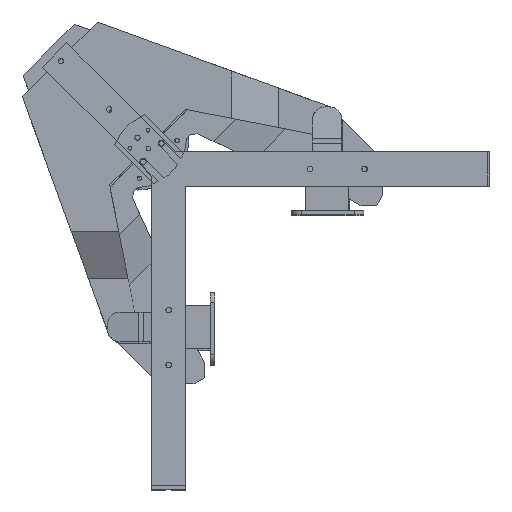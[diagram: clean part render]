
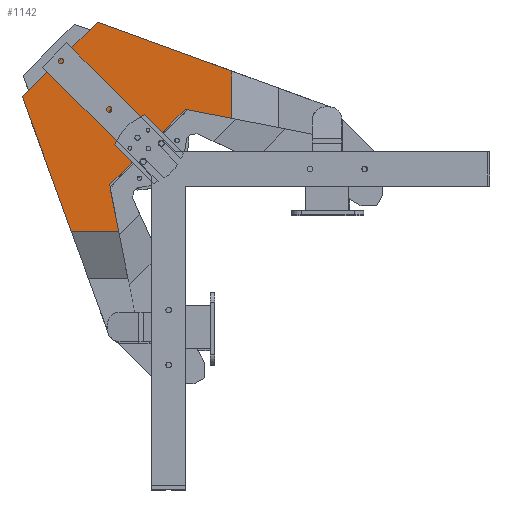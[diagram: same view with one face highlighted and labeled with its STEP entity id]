
A CAD part, top view. The second image highlights one B-rep face of the part: STEP entity #1142.
In plain terms, the highlighted planar face has unit normal (0, 0, 1).
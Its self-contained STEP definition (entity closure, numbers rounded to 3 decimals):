
#1142=ADVANCED_FACE('',(#2999,#3000,#3001),#3002,.F.);
#2999=FACE_BOUND('',#5664,.T.);
#3000=FACE_BOUND('',#5665,.T.);
#3001=FACE_OUTER_BOUND('',#5666,.T.);
#3002=PLANE('',#5667);
#5664=EDGE_LOOP('',(#9088,#9089,#9090,#9091,#9092,#9093,#9094));
#5665=EDGE_LOOP('',(#9095,#9096,#9097,#9098,#9099,#9100,#9101));
#5666=EDGE_LOOP('',(#9102,#9103,#9104,#9105,#9106,#9107,#9108,#9109,#9110,#9111,#9112,#9113,#9114));
#5667=AXIS2_PLACEMENT_3D('',#9115,#9116,#9117);
#9088=ORIENTED_EDGE('',*,*,#16043,.T.);
#9089=ORIENTED_EDGE('',*,*,#16006,.T.);
#9090=ORIENTED_EDGE('',*,*,#16047,.T.);
#9091=ORIENTED_EDGE('',*,*,#16035,.T.);
#9092=ORIENTED_EDGE('',*,*,#16011,.T.);
#9093=ORIENTED_EDGE('',*,*,#16016,.T.);
#9094=ORIENTED_EDGE('',*,*,#16041,.T.);
#9095=ORIENTED_EDGE('',*,*,#16057,.T.);
#9096=ORIENTED_EDGE('',*,*,#15992,.T.);
#9097=ORIENTED_EDGE('',*,*,#16061,.T.);
#9098=ORIENTED_EDGE('',*,*,#16049,.T.);
#9099=ORIENTED_EDGE('',*,*,#15997,.T.);
#9100=ORIENTED_EDGE('',*,*,#16002,.T.);
#9101=ORIENTED_EDGE('',*,*,#16055,.T.);
#9102=ORIENTED_EDGE('',*,*,#16117,.T.);
#9103=ORIENTED_EDGE('',*,*,#16118,.T.);
#9104=ORIENTED_EDGE('',*,*,#16119,.F.);
#9105=ORIENTED_EDGE('',*,*,#16120,.F.);
#9106=ORIENTED_EDGE('',*,*,#16121,.T.);
#9107=ORIENTED_EDGE('',*,*,#16072,.F.);
#9108=ORIENTED_EDGE('',*,*,#16107,.F.);
#9109=ORIENTED_EDGE('',*,*,#16093,.T.);
#9110=ORIENTED_EDGE('',*,*,#16104,.T.);
#9111=ORIENTED_EDGE('',*,*,#16084,.F.);
#9112=ORIENTED_EDGE('',*,*,#16112,.F.);
#9113=ORIENTED_EDGE('',*,*,#16114,.T.);
#9114=ORIENTED_EDGE('',*,*,#16065,.F.);
#9115=CARTESIAN_POINT('',(-46.431,58.693,646.3));
#9116=DIRECTION('',(0.0,0.0,-1.0));
#9117=DIRECTION('',(1.0,0.0,0.0));
#15992=EDGE_CURVE('',#19267,#19264,#19268,.T.);
#15997=EDGE_CURVE('',#19276,#19274,#19277,.T.);
#16002=EDGE_CURVE('',#19274,#19282,#19285,.T.);
#16006=EDGE_CURVE('',#19291,#19288,#19292,.T.);
#16011=EDGE_CURVE('',#19300,#19298,#19301,.T.);
#16016=EDGE_CURVE('',#19298,#19306,#19309,.T.);
#16035=EDGE_CURVE('',#19336,#19300,#19337,.T.);
#16041=EDGE_CURVE('',#19306,#19344,#19346,.T.);
#16043=EDGE_CURVE('',#19344,#19291,#19348,.T.);
#16047=EDGE_CURVE('',#19288,#19336,#19352,.T.);
#16049=EDGE_CURVE('',#19354,#19276,#19355,.T.);
#16055=EDGE_CURVE('',#19282,#19362,#19364,.T.);
#16057=EDGE_CURVE('',#19362,#19267,#19366,.T.);
#16061=EDGE_CURVE('',#19264,#19354,#19370,.T.);
#16065=EDGE_CURVE('',#19375,#19377,#19378,.T.);
#16072=EDGE_CURVE('',#19388,#19383,#19390,.T.);
#16084=EDGE_CURVE('',#19408,#19410,#19411,.T.);
#16093=EDGE_CURVE('',#19424,#19422,#19425,.T.);
#16104=EDGE_CURVE('',#19422,#19410,#19438,.T.);
#16107=EDGE_CURVE('',#19424,#19388,#19441,.T.);
#16112=EDGE_CURVE('',#19447,#19408,#19449,.T.);
#16114=EDGE_CURVE('',#19447,#19377,#19451,.T.);
#16117=EDGE_CURVE('',#19375,#19454,#19455,.T.);
#16118=EDGE_CURVE('',#19454,#19456,#19457,.T.);
#16119=EDGE_CURVE('',#19458,#19456,#19459,.T.);
#16120=EDGE_CURVE('',#19460,#19458,#19461,.T.);
#16121=EDGE_CURVE('',#19460,#19383,#19462,.T.);
#19264=VERTEX_POINT('',#24403);
#19267=VERTEX_POINT('',#24407);
#19268=CIRCLE('',#24408,2.9);
#19274=VERTEX_POINT('',#24415);
#19276=VERTEX_POINT('',#24418);
#19277=CIRCLE('',#24419,5.4);
#19282=VERTEX_POINT('',#24425);
#19285=CIRCLE('',#24429,5.4);
#19288=VERTEX_POINT('',#24432);
#19291=VERTEX_POINT('',#24436);
#19292=CIRCLE('',#24437,2.9);
#19298=VERTEX_POINT('',#24444);
#19300=VERTEX_POINT('',#24447);
#19301=CIRCLE('',#24448,5.4);
#19306=VERTEX_POINT('',#24454);
#19309=CIRCLE('',#24458,5.4);
#19336=VERTEX_POINT('',#24489);
#19337=LINE('',#24490,#24491);
#19344=VERTEX_POINT('',#24500);
#19346=CIRCLE('',#24503,5.4);
#19348=LINE('',#24505,#24506);
#19352=CIRCLE('',#24511,2.9);
#19354=VERTEX_POINT('',#24513);
#19355=LINE('',#24514,#24515);
#19362=VERTEX_POINT('',#24524);
#19364=CIRCLE('',#24527,5.4);
#19366=LINE('',#24529,#24530);
#19370=CIRCLE('',#24535,2.9);
#19375=VERTEX_POINT('',#24541);
#19377=VERTEX_POINT('',#24544);
#19378=LINE('',#24545,#24546);
#19383=VERTEX_POINT('',#24553);
#19388=VERTEX_POINT('',#24560);
#19390=LINE('',#24563,#24564);
#19408=VERTEX_POINT('',#24589);
#19410=VERTEX_POINT('',#24592);
#19411=LINE('',#24593,#24594);
#19422=VERTEX_POINT('',#24609);
#19424=VERTEX_POINT('',#24612);
#19425=LINE('',#24613,#24614);
#19438=LINE('',#24633,#24634);
#19441=LINE('',#24638,#24639);
#19447=VERTEX_POINT('',#24647);
#19449=LINE('',#24650,#24651);
#19451=LINE('',#24653,#24654);
#19454=VERTEX_POINT('',#24658);
#19455=LINE('',#24659,#24660);
#19456=VERTEX_POINT('',#24661);
#19457=LINE('',#24662,#24663);
#19458=VERTEX_POINT('',#24664);
#19459=LINE('',#24665,#24666);
#19460=VERTEX_POINT('',#24667);
#19461=LINE('',#24668,#24669);
#19462=LINE('',#24670,#24671);
#24403=CARTESIAN_POINT('',(-109.393,112.983,646.3));
#24407=CARTESIAN_POINT('',(-110.243,115.034,646.3));
#24408=AXIS2_PLACEMENT_3D('',#31413,#31414,#31415);
#24415=CARTESIAN_POINT('',(-123.35,118.64,646.3));
#24418=CARTESIAN_POINT('',(-116.78,113.368,646.3));
#24419=AXIS2_PLACEMENT_3D('',#31421,#31422,#31423);
#24425=CARTESIAN_POINT('',(-112.55,118.64,646.3));
#24429=AXIS2_PLACEMENT_3D('',#31429,#31430,#31431);
#24432=CARTESIAN_POINT('',(-159.386,162.976,646.3));
#24436=CARTESIAN_POINT('',(-160.235,165.026,646.3));
#24437=AXIS2_PLACEMENT_3D('',#31436,#31437,#31438);
#24444=CARTESIAN_POINT('',(-173.343,168.633,646.3));
#24447=CARTESIAN_POINT('',(-166.772,163.361,646.3));
#24448=AXIS2_PLACEMENT_3D('',#31444,#31445,#31446);
#24454=CARTESIAN_POINT('',(-162.543,168.633,646.3));
#24458=AXIS2_PLACEMENT_3D('',#31452,#31453,#31454);
#24489=CARTESIAN_POINT('',(-164.336,160.925,646.3));
#24490=CARTESIAN_POINT('',(-110.36,106.953,646.3));
#24491=VECTOR('',#31486,1.0);
#24500=CARTESIAN_POINT('',(-162.671,167.462,646.3));
#24503=AXIS2_PLACEMENT_3D('',#31493,#31494,#31495);
#24505=CARTESIAN_POINT('',(-106.259,111.054,646.3));
#24506=VECTOR('',#31496,1.0);
#24511=AXIS2_PLACEMENT_3D('',#31501,#31502,#31503);
#24513=CARTESIAN_POINT('',(-114.344,110.933,646.3));
#24514=CARTESIAN_POINT('',(-85.365,81.956,646.3));
#24515=VECTOR('',#31504,1.0);
#24524=CARTESIAN_POINT('',(-112.678,117.469,646.3));
#24527=AXIS2_PLACEMENT_3D('',#31511,#31512,#31513);
#24529=CARTESIAN_POINT('',(-81.264,86.057,646.3));
#24530=VECTOR('',#31514,1.0);
#24535=AXIS2_PLACEMENT_3D('',#31519,#31520,#31521);
#24541=CARTESIAN_POINT('',(-205.765,156.666,646.3));
#24544=CARTESIAN_POINT('',(-168.418,194.014,646.3));
#24545=CARTESIAN_POINT('',(-173.876,188.555,646.3));
#24546=VECTOR('',#31524,1.0);
#24553=CARTESIAN_POINT('',(-100.449,56.921,646.3));
#24560=CARTESIAN_POINT('',(-56.228,101.143,646.3));
#24563=CARTESIAN_POINT('',(-71.311,86.06,646.3));
#24564=VECTOR('',#31530,1.0);
#24589=CARTESIAN_POINT('',(-137.203,225.231,646.3));
#24592=CARTESIAN_POINT('',(19.987,168.025,646.3));
#24593=CARTESIAN_POINT('',(5.518,173.29,646.3));
#24594=VECTOR('',#31542,1.0);
#24609=CARTESIAN_POINT('',(19.99,112.693,646.3));
#24612=CARTESIAN_POINT('',(-34.132,123.241,646.3));
#24613=CARTESIAN_POINT('',(-20.229,120.531,646.3));
#24614=VECTOR('',#31551,1.0);
#24633=CARTESIAN_POINT('',(19.992,42.757,646.3));
#24634=VECTOR('',#31558,1.0);
#24638=CARTESIAN_POINT('',(-87.015,70.354,646.3));
#24639=VECTOR('',#31560,1.0);
#24647=CARTESIAN_POINT('',(-155.977,206.455,646.3));
#24650=CARTESIAN_POINT('',(-140.057,222.376,646.3));
#24651=VECTOR('',#31564,1.0);
#24653=CARTESIAN_POINT('',(-221.66,140.768,646.3));
#24654=VECTOR('',#31565,1.0);
#24658=CARTESIAN_POINT('',(-224.54,137.891,646.3));
#24659=CARTESIAN_POINT('',(-221.685,140.745,646.3));
#24660=VECTOR('',#31567,1.0);
#24661=CARTESIAN_POINT('',(-167.328,-19.297,646.3));
#24662=CARTESIAN_POINT('',(-172.594,-4.828,646.3));
#24663=VECTOR('',#31568,1.0);
#24664=CARTESIAN_POINT('',(-111.996,-19.297,646.3));
#24665=CARTESIAN_POINT('',(-42.061,-19.297,646.3));
#24666=VECTOR('',#31569,1.0);
#24667=CARTESIAN_POINT('',(-122.546,34.823,646.3));
#24668=CARTESIAN_POINT('',(-119.836,20.921,646.3));
#24669=VECTOR('',#31570,1.0);
#24670=CARTESIAN_POINT('',(-69.661,87.709,646.3));
#24671=VECTOR('',#31571,1.0);
#31413=CARTESIAN_POINT('',(-112.293,112.983,646.3));
#31414=DIRECTION('',(0.0,0.0,-1.0));
#31415=DIRECTION('',(1.0,0.0,0.0));
#31421=CARTESIAN_POINT('',(-117.95,118.64,646.3));
#31422=DIRECTION('',(0.0,0.0,-1.0));
#31423=DIRECTION('',(1.0,0.0,0.0));
#31429=CARTESIAN_POINT('',(-117.95,118.64,646.3));
#31430=DIRECTION('',(0.0,0.0,-1.0));
#31431=DIRECTION('',(1.0,0.0,0.0));
#31436=CARTESIAN_POINT('',(-162.286,162.976,646.3));
#31437=DIRECTION('',(0.0,0.0,-1.0));
#31438=DIRECTION('',(1.0,0.0,0.0));
#31444=CARTESIAN_POINT('',(-167.943,168.633,646.3));
#31445=DIRECTION('',(0.0,0.0,-1.0));
#31446=DIRECTION('',(1.0,0.0,0.0));
#31452=CARTESIAN_POINT('',(-167.943,168.633,646.3));
#31453=DIRECTION('',(0.0,0.0,-1.0));
#31454=DIRECTION('',(1.0,0.0,0.0));
#31486=DIRECTION('',(-0.707,0.707,0.0));
#31493=CARTESIAN_POINT('',(-167.943,168.633,646.3));
#31494=DIRECTION('',(0.0,0.0,-1.0));
#31495=DIRECTION('',(1.0,0.0,0.0));
#31496=DIRECTION('',(0.707,-0.707,0.0));
#31501=CARTESIAN_POINT('',(-162.286,162.976,646.3));
#31502=DIRECTION('',(0.0,0.0,-1.0));
#31503=DIRECTION('',(1.0,0.0,0.0));
#31504=DIRECTION('',(-0.707,0.707,0.0));
#31511=CARTESIAN_POINT('',(-117.95,118.64,646.3));
#31512=DIRECTION('',(0.0,0.0,-1.0));
#31513=DIRECTION('',(1.0,0.0,0.0));
#31514=DIRECTION('',(0.707,-0.707,0.0));
#31519=CARTESIAN_POINT('',(-112.293,112.983,646.3));
#31520=DIRECTION('',(0.0,0.0,-1.0));
#31521=DIRECTION('',(1.0,0.0,0.0));
#31524=DIRECTION('',(0.707,0.707,0.0));
#31530=DIRECTION('',(-0.707,-0.707,0.0));
#31542=DIRECTION('',(0.94,-0.342,0.0));
#31551=DIRECTION('',(0.982,-0.191,0.0));
#31558=DIRECTION('',(0.,1.,0.0));
#31560=DIRECTION('',(-0.707,-0.707,0.0));
#31564=DIRECTION('',(0.707,0.707,0.0));
#31565=DIRECTION('',(-0.707,-0.707,0.0));
#31567=DIRECTION('',(-0.707,-0.707,0.0));
#31568=DIRECTION('',(0.342,-0.94,0.0));
#31569=DIRECTION('',(-1.0,0.0,0.0));
#31570=DIRECTION('',(0.191,-0.982,0.0));
#31571=DIRECTION('',(0.707,0.707,0.0));
